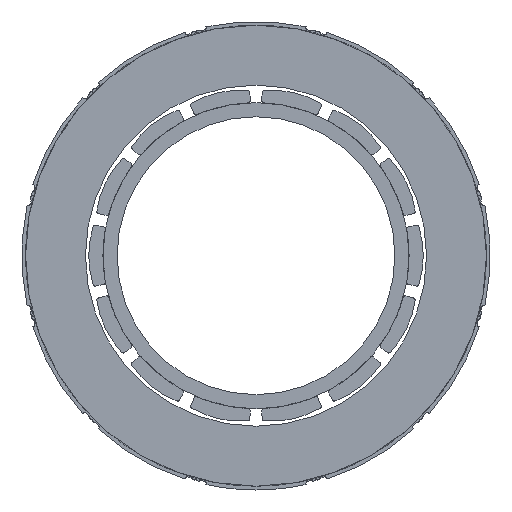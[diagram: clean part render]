
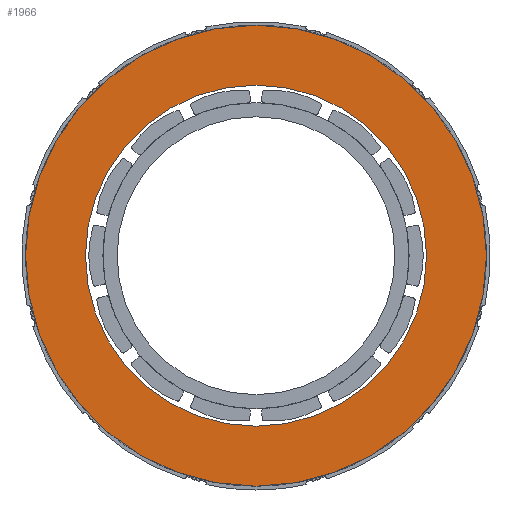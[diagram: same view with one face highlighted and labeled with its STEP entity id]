
A CAD part, left-side view. The second image highlights one B-rep face of the part: STEP entity #1966.
In plain terms, the highlighted planar face has unit normal (-1, 0, 0).
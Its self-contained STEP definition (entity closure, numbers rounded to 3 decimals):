
#122 = EDGE_CURVE ( 'NONE', #3934, #7254, #3902, .T. ) ;
#467 = CARTESIAN_POINT ( 'NONE',  ( -12.303, -18.169, 1.884 ) ) ;
#1730 = ORIENTED_EDGE ( 'NONE', *, *, #14220, .F. ) ;
#1899 = ORIENTED_EDGE ( 'NONE', *, *, #122, .T. ) ;
#1966 = ADVANCED_FACE ( 'NONE', ( #13334, #12525 ), #7163, .T. ) ;
#2331 = EDGE_CURVE ( 'NONE', #7254, #3934, #3268, .T. ) ;
#2577 = DIRECTION ( 'NONE',  ( 0., 0., 1. ) ) ;
#2707 = CARTESIAN_POINT ( 'NONE',  ( -12.303, -18.169, 23.034 ) ) ;
#2785 = ORIENTED_EDGE ( 'NONE', *, *, #4918, .F. ) ;
#3268 = CIRCLE ( 'NONE', #13212, 21.15 ) ;
#3419 = DIRECTION ( 'NONE',  ( -1., 0., 0. ) ) ;
#3902 = CIRCLE ( 'NONE', #13854, 21.15 ) ;
#3934 = VERTEX_POINT ( 'NONE', #2707 ) ;
#4345 = CARTESIAN_POINT ( 'NONE',  ( -12.303, -18.169, 1.884 ) ) ;
#4760 = DIRECTION ( 'NONE',  ( -1., 0., 0. ) ) ;
#4831 = DIRECTION ( 'NONE',  ( -1., 0., 0. ) ) ;
#4918 = EDGE_CURVE ( 'NONE', #12804, #5994, #13754, .T. ) ;
#5115 = CARTESIAN_POINT ( 'NONE',  ( -12.303, -18.169, 17.534 ) ) ;
#5983 = CARTESIAN_POINT ( 'NONE',  ( -12.303, -18.169, 1.884 ) ) ;
#5994 = VERTEX_POINT ( 'NONE', #5115 ) ;
#6398 = CARTESIAN_POINT ( 'NONE',  ( -12.303, -18.169, 1.884 ) ) ;
#6718 = EDGE_LOOP ( 'NONE', ( #13366, #1899 ) ) ;
#6947 = DIRECTION ( 'NONE',  ( 0., 0., 1. ) ) ;
#7163 = PLANE ( 'NONE',  #8022 ) ;
#7177 = CARTESIAN_POINT ( 'NONE',  ( -12.303, -18.169, -13.766 ) ) ;
#7254 = VERTEX_POINT ( 'NONE', #12738 ) ;
#7443 = EDGE_LOOP ( 'NONE', ( #1730, #2785 ) ) ;
#8022 = AXIS2_PLACEMENT_3D ( 'NONE', #10356, #3419, #6947 ) ;
#8085 = DIRECTION ( 'NONE',  ( 0., 0., 1. ) ) ;
#8174 = CIRCLE ( 'NONE', #12103, 15.65 ) ;
#8427 = AXIS2_PLACEMENT_3D ( 'NONE', #6398, #8642, #12039 ) ;
#8642 = DIRECTION ( 'NONE',  ( -1., 0., 0. ) ) ;
#10356 = CARTESIAN_POINT ( 'NONE',  ( -12.303, -18.169, 1.884 ) ) ;
#11936 = DIRECTION ( 'NONE',  ( 0., 0., 1. ) ) ;
#12039 = DIRECTION ( 'NONE',  ( 0., 0., 1. ) ) ;
#12103 = AXIS2_PLACEMENT_3D ( 'NONE', #4345, #14197, #11936 ) ;
#12525 = FACE_BOUND ( 'NONE', #7443, .T. ) ;
#12738 = CARTESIAN_POINT ( 'NONE',  ( -12.303, -18.169, -19.266 ) ) ;
#12804 = VERTEX_POINT ( 'NONE', #7177 ) ;
#13212 = AXIS2_PLACEMENT_3D ( 'NONE', #467, #4760, #2577 ) ;
#13334 = FACE_OUTER_BOUND ( 'NONE', #6718, .T. ) ;
#13366 = ORIENTED_EDGE ( 'NONE', *, *, #2331, .T. ) ;
#13754 = CIRCLE ( 'NONE', #8427, 15.65 ) ;
#13854 = AXIS2_PLACEMENT_3D ( 'NONE', #5983, #4831, #8085 ) ;
#14197 = DIRECTION ( 'NONE',  ( -1., 0., 0. ) ) ;
#14220 = EDGE_CURVE ( 'NONE', #5994, #12804, #8174, .T. ) ;
